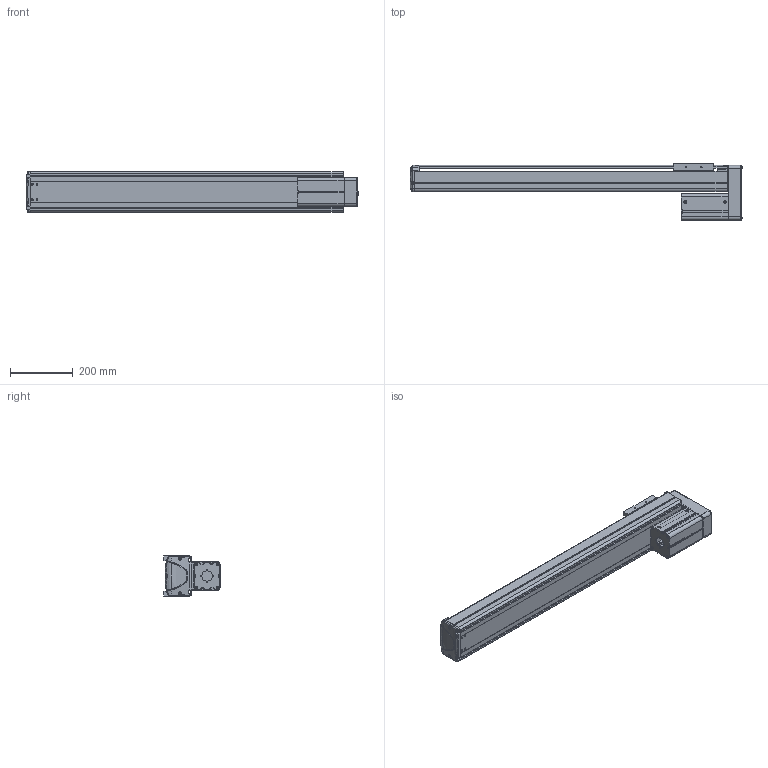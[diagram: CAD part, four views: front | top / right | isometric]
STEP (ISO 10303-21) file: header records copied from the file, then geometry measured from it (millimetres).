
FILE_DESCRIPTION((''),'2;1');
FILE_NAME('BE30E-UU-M_N-80_IGS_PRT','2017-06-17T',(' '),(''),'PRO/ENGINEER BY PARAMETRIC TECHNOLOGY CORPORATION, 2015030','PRO/ENGINEER BY PARAMETRIC TECHNOLOGY CORPORATION, 2015030','');
FILE_SCHEMA(('CONFIG_CONTROL_DESIGN'));
Length unit declared in the file: millimetre
Products named in the file (1): BE30E-UU-M_N-80_IGS_PRT
Bounding box: 1061.9 x 180 x 130 mm (x, y, z)
Volume: 3511243.8 mm3; surface area: 1508961.6 mm2
Topology: 2 solids, 122 shells, 2038 faces, 5499 edges, 3570 vertices
Faces by surface type: plane 991, cylinder 851, cone 107, torus 37, bspline 28, sphere 24
Entity records: 66037 total; most frequent: CARTESIAN_POINT 13972, DIRECTION 11002, ORIENTED_EDGE 10459, EDGE_CURVE 5461, AXIS2_PLACEMENT_3D 3877, VERTEX_POINT 3570, VECTOR 3248, LINE 3248
